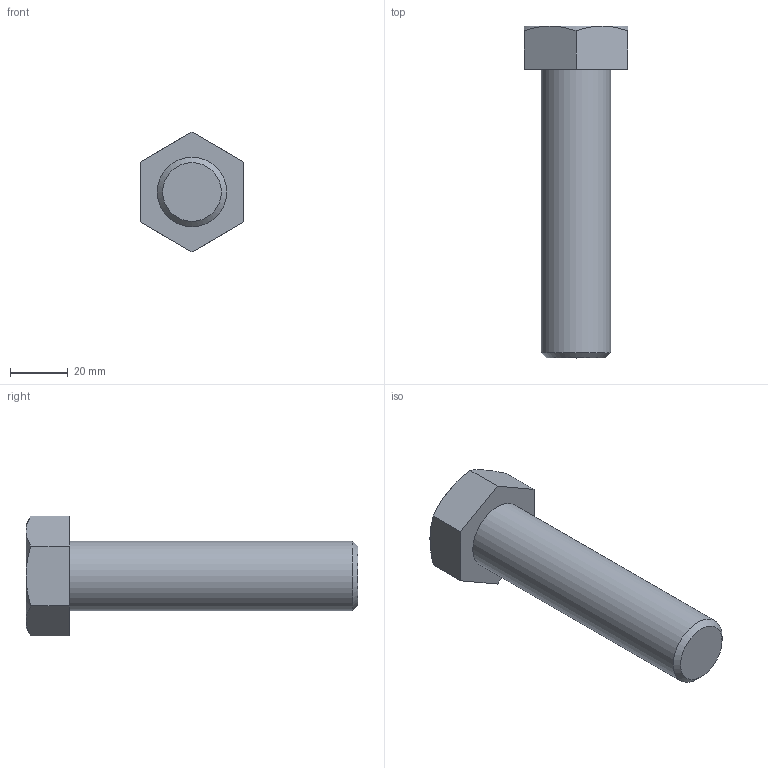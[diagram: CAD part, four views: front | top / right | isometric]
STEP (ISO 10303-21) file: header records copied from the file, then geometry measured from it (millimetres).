
FILE_DESCRIPTION(/* description */ (''),/* implementation_level */ '2;1');
FILE_NAME(/* name */ 'C:\Users\unitec\Documents\Inventor\各種小物\JIS\JIS B 1180 六角ボルト 等級C\hbc24\M24x100.stp',/* time_stamp */ '2015-02-13T14:54:32+09:00',/* author */ ('unitec'),/* organization */ (''),/* preprocessor_version */ 'ST-DEVELOPER v15.2',/* originating_system */ 'Autodesk Inventor 2014',/* authorisation */ '');
FILE_SCHEMA (('AUTOMOTIVE_DESIGN { 1 0 10303 214 3 1 1 }'));
Length unit declared in the file: millimetre
Products named in the file (1): M24x100
Bounding box: 36 x 115 x 41.57 mm (x, y, z)
Volume: 61902.7 mm3; surface area: 11516.9 mm2
Topology: 1 solids, 1 shells, 17 faces, 35 edges, 21 vertices
Faces by surface type: plane 9, cone 7, cylinder 1
Full cylindrical faces by diameter (mm): 24 x1
Entity records: 441 total; most frequent: CARTESIAN_POINT 96, ORIENTED_EDGE 66, DIRECTION 66, EDGE_CURVE 33, AXIS2_PLACEMENT_3D 27, VERTEX_POINT 21, EDGE_LOOP 20, ADVANCED_FACE 17
